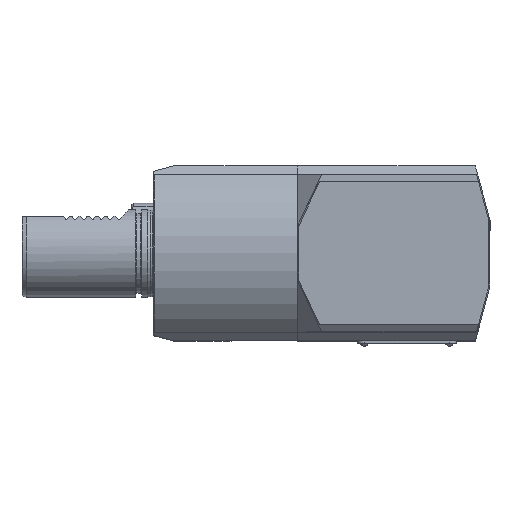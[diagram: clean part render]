
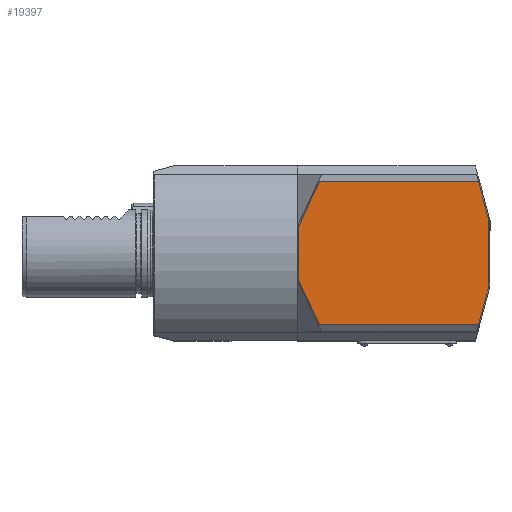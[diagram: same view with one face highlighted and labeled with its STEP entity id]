
A CAD part, top view. The second image highlights one B-rep face of the part: STEP entity #19397.
In plain terms, the highlighted planar face has unit normal (0, 0, 1) as drawn and (-1, 0, 0) by its records, which use the part's own axes.
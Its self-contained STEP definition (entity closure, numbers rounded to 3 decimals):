
#1304=ORIENTED_EDGE('',*,*,#4429,.F.);
#1305=ORIENTED_EDGE('',*,*,#4462,.F.);
#1306=ORIENTED_EDGE('',*,*,#4463,.F.);
#1307=ORIENTED_EDGE('',*,*,#4464,.F.);
#1308=ORIENTED_EDGE('',*,*,#4465,.F.);
#1309=ORIENTED_EDGE('',*,*,#4466,.F.);
#1310=ORIENTED_EDGE('',*,*,#4459,.F.);
#1311=ORIENTED_EDGE('',*,*,#4467,.F.);
#2787=VECTOR('',#6816,1.);
#2816=VECTOR('',#6869,1.);
#2819=VECTOR('',#6874,1.);
#2820=VECTOR('',#6875,1.);
#2821=VECTOR('',#6876,1.);
#2822=VECTOR('',#6877,1.);
#2823=VECTOR('',#6878,1.);
#2824=VECTOR('',#6879,1.);
#3215=LINE('',#9220,#2787);
#3244=LINE('',#9279,#2816);
#3247=LINE('',#9284,#2819);
#3248=LINE('',#9286,#2820);
#3249=LINE('',#9288,#2821);
#3250=LINE('',#9290,#2822);
#3251=LINE('',#9291,#2823);
#3252=LINE('',#9292,#2824);
#3698=VERTEX_POINT('',#9217);
#3699=VERTEX_POINT('',#9219);
#3716=VERTEX_POINT('',#9277);
#3717=VERTEX_POINT('',#9278);
#3718=VERTEX_POINT('',#9283);
#3719=VERTEX_POINT('',#9285);
#3720=VERTEX_POINT('',#9287);
#3721=VERTEX_POINT('',#9289);
#4429=EDGE_CURVE('',#3698,#3699,#3215,.T.);
#4459=EDGE_CURVE('',#3716,#3717,#3244,.T.);
#4462=EDGE_CURVE('',#3718,#3698,#3247,.T.);
#4463=EDGE_CURVE('',#3719,#3718,#3248,.T.);
#4464=EDGE_CURVE('',#3720,#3719,#3249,.T.);
#4465=EDGE_CURVE('',#3721,#3720,#3250,.T.);
#4466=EDGE_CURVE('',#3717,#3721,#3251,.T.);
#4467=EDGE_CURVE('',#3699,#3716,#3252,.T.);
#5289=EDGE_LOOP('',(#1304,#1305,#1306,#1307,#1308,#1309,#1310,#1311));
#5846=FACE_BOUND('',#5289,.T.);
#6816=DIRECTION('',(0.,-72.709,0.));
#6869=DIRECTION('',(0.,0.,-29.868));
#6872=DIRECTION('',(-1.,0.,0.));
#6873=DIRECTION('',(0.,1.,0.));
#6874=DIRECTION('',(0.,-9.524,20.425));
#6875=DIRECTION('',(0.,0.,24.599));
#6876=DIRECTION('',(0.,9.524,20.425));
#6877=DIRECTION('',(0.,72.709,0.));
#6878=DIRECTION('',(0.,4.767,-17.79));
#6879=DIRECTION('',(0.,-4.767,-17.79));
#9217=CARTESIAN_POINT('',(54.381,126.198,32.724));
#9219=CARTESIAN_POINT('',(54.381,53.489,32.724));
#9220=CARTESIAN_POINT('',(54.381,126.198,32.724));
#9277=CARTESIAN_POINT('',(54.381,48.722,14.934));
#9278=CARTESIAN_POINT('',(54.381,48.722,-14.934));
#9279=CARTESIAN_POINT('',(54.381,48.722,14.934));
#9282=CARTESIAN_POINT('',(54.381,48.222,0.));
#9283=CARTESIAN_POINT('',(54.381,135.722,12.3));
#9284=CARTESIAN_POINT('',(54.381,135.722,12.3));
#9285=CARTESIAN_POINT('',(54.381,135.722,-12.3));
#9286=CARTESIAN_POINT('',(54.381,135.722,-12.3));
#9287=CARTESIAN_POINT('',(54.381,126.198,-32.724));
#9288=CARTESIAN_POINT('',(54.381,126.198,-32.724));
#9289=CARTESIAN_POINT('',(54.381,53.489,-32.724));
#9290=CARTESIAN_POINT('',(54.381,53.489,-32.724));
#9291=CARTESIAN_POINT('',(54.381,48.722,-14.934));
#9292=CARTESIAN_POINT('',(54.381,53.489,32.724));
#18461=AXIS2_PLACEMENT_3D('',#9282,#6872,#6873);
#19120=PLANE('',#18461);
#19397=ADVANCED_FACE('',(#5846),#19120,.T.);
